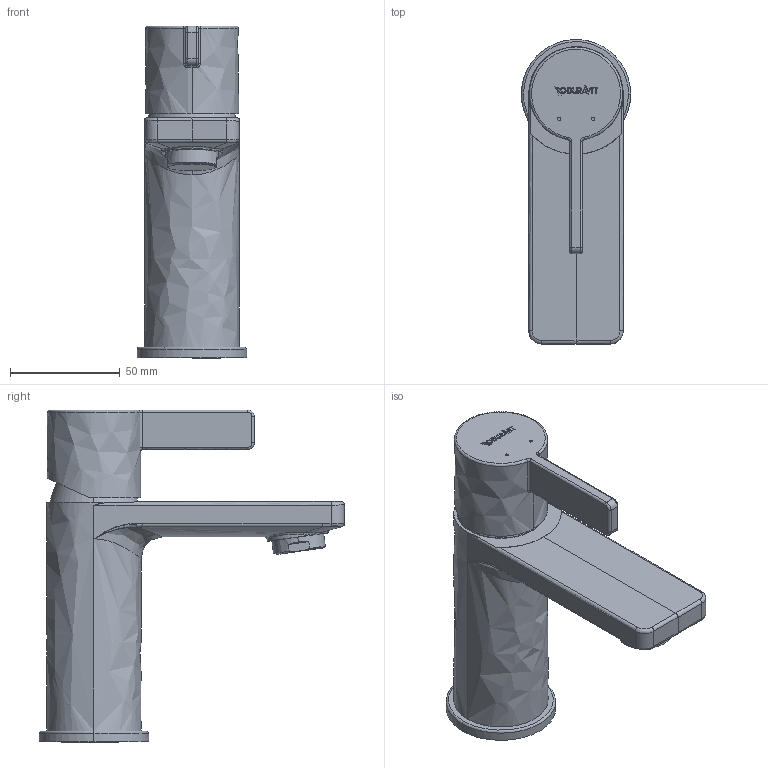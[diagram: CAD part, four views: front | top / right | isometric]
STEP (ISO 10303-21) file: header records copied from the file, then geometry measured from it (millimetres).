
FILE_DESCRIPTION(/* description */ (''),/* implementation_level */ '2;1');
FILE_NAME(/* name */ 'DE1010002010',/* time_stamp */ '2021-06-21T08:16:13+02:00',/* author */ (''),/* organization */ (''),/* preprocessor_version */ 'ST-DEVELOPER v15',/* originating_system */ '',/* authorisation */ '');
FILE_SCHEMA (('AUTOMOTIVE_DESIGN'));
Length unit declared in the file: millimetre
Products named in the file (2): Document; Block 01
Assembly tree (1 placements, depth 2):
  Document
    Block 01
Bounding box: 49.8 x 139.04 x 151.32 mm (x, y, z)
Surface area: 42332.1 mm2 (no closed solid volume)
Topology: 0 solids, 7 shells, 239 faces, 591 edges, 375 vertices
Faces by surface type: bspline 132, plane 107
Entity records: 12402 total; most frequent: CARTESIAN_POINT 8557, ORIENTED_EDGE 1163, EDGE_CURVE 592, B_SPLINE_CURVE_WITH_KNOTS 499, VERTEX_POINT 375, EDGE_LOOP 260, ADVANCED_FACE 237, FACE_OUTER_BOUND 237
